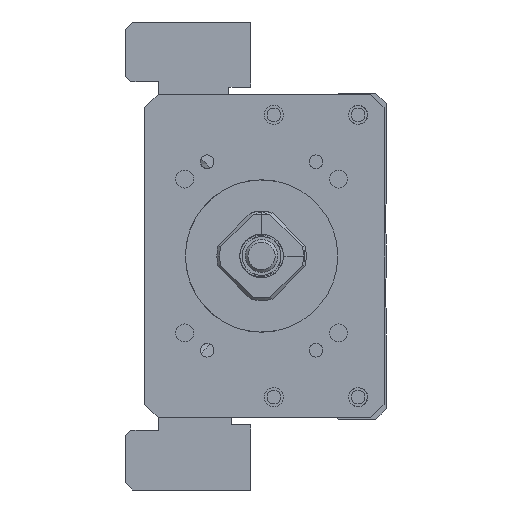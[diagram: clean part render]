
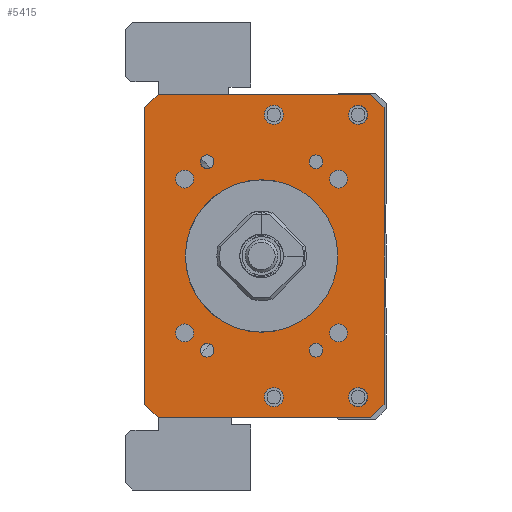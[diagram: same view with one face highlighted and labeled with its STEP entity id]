
A CAD part, left-side view. The second image highlights one B-rep face of the part: STEP entity #5415.
In plain terms, the highlighted planar face has unit normal (-1, 0, 0).
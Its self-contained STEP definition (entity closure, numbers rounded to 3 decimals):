
#4422=FACE_BOUND('',#7089,.T.);
#4423=FACE_BOUND('',#7090,.T.);
#4424=FACE_BOUND('',#7091,.T.);
#4425=FACE_BOUND('',#7092,.T.);
#4426=FACE_BOUND('',#7093,.T.);
#4427=FACE_BOUND('',#7094,.T.);
#4428=FACE_BOUND('',#7095,.T.);
#4429=FACE_BOUND('',#7096,.T.);
#4430=FACE_BOUND('',#7097,.T.);
#4431=FACE_BOUND('',#7098,.T.);
#4432=FACE_BOUND('',#7099,.T.);
#4433=FACE_BOUND('',#7100,.T.);
#4434=FACE_BOUND('',#7101,.T.);
#4435=FACE_BOUND('',#7102,.T.);
#4815=CIRCLE('',#15295,14.);
#4824=CIRCLE('',#15306,1.65);
#4825=CIRCLE('',#15307,1.65);
#4826=CIRCLE('',#15308,1.65);
#4827=CIRCLE('',#15309,1.65);
#4828=CIRCLE('',#15310,1.25);
#4829=CIRCLE('',#15311,1.75);
#4830=CIRCLE('',#15312,1.25);
#4831=CIRCLE('',#15313,1.75);
#4832=CIRCLE('',#15314,1.25);
#4833=CIRCLE('',#15315,1.75);
#4834=CIRCLE('',#15316,1.75);
#4835=CIRCLE('',#15317,1.25);
#5415=ADVANCED_FACE('',(#4422,#4423,#4424,#4425,#4426,#4427,#4428,#4429,
#4430,#4431,#4432,#4433,#4434,#4435),#5910,.F.);
#5910=PLANE('',#15318);
#7089=EDGE_LOOP('',(#9559));
#7090=EDGE_LOOP('',(#9560));
#7091=EDGE_LOOP('',(#9561));
#7092=EDGE_LOOP('',(#9562));
#7093=EDGE_LOOP('',(#9563));
#7094=EDGE_LOOP('',(#9564));
#7095=EDGE_LOOP('',(#9565));
#7096=EDGE_LOOP('',(#9566));
#7097=EDGE_LOOP('',(#9567));
#7098=EDGE_LOOP('',(#9568,#9569,#9570,#9571,#9572,#9573,#9574,#9575));
#7099=EDGE_LOOP('',(#9576));
#7100=EDGE_LOOP('',(#9577));
#7101=EDGE_LOOP('',(#9578));
#7102=EDGE_LOOP('',(#9579));
#9559=ORIENTED_EDGE('',*,*,#12400,.F.);
#9560=ORIENTED_EDGE('',*,*,#12401,.F.);
#9561=ORIENTED_EDGE('',*,*,#12402,.F.);
#9562=ORIENTED_EDGE('',*,*,#12403,.F.);
#9563=ORIENTED_EDGE('',*,*,#12404,.F.);
#9564=ORIENTED_EDGE('',*,*,#12405,.T.);
#9565=ORIENTED_EDGE('',*,*,#12406,.F.);
#9566=ORIENTED_EDGE('',*,*,#12407,.F.);
#9567=ORIENTED_EDGE('',*,*,#12408,.F.);
#9568=ORIENTED_EDGE('',*,*,#12397,.T.);
#9569=ORIENTED_EDGE('',*,*,#12409,.T.);
#9570=ORIENTED_EDGE('',*,*,#12410,.F.);
#9571=ORIENTED_EDGE('',*,*,#12411,.T.);
#9572=ORIENTED_EDGE('',*,*,#12412,.F.);
#9573=ORIENTED_EDGE('',*,*,#12413,.T.);
#9574=ORIENTED_EDGE('',*,*,#12414,.T.);
#9575=ORIENTED_EDGE('',*,*,#12415,.T.);
#9576=ORIENTED_EDGE('',*,*,#12416,.F.);
#9577=ORIENTED_EDGE('',*,*,#12417,.F.);
#9578=ORIENTED_EDGE('',*,*,#12418,.F.);
#9579=ORIENTED_EDGE('',*,*,#12377,.F.);
#11044=VERTEX_POINT('',#21496);
#11064=VERTEX_POINT('',#21556);
#11065=VERTEX_POINT('',#21558);
#11067=VERTEX_POINT('',#21564);
#11068=VERTEX_POINT('',#21566);
#11069=VERTEX_POINT('',#21568);
#11070=VERTEX_POINT('',#21570);
#11071=VERTEX_POINT('',#21572);
#11072=VERTEX_POINT('',#21574);
#11073=VERTEX_POINT('',#21576);
#11074=VERTEX_POINT('',#21578);
#11075=VERTEX_POINT('',#21580);
#11076=VERTEX_POINT('',#21582);
#11077=VERTEX_POINT('',#21584);
#11078=VERTEX_POINT('',#21586);
#11079=VERTEX_POINT('',#21588);
#11080=VERTEX_POINT('',#21590);
#11081=VERTEX_POINT('',#21592);
#11082=VERTEX_POINT('',#21595);
#11083=VERTEX_POINT('',#21597);
#11084=VERTEX_POINT('',#21599);
#12377=EDGE_CURVE('',#11044,#11044,#4815,.T.);
#12397=EDGE_CURVE('',#11065,#11064,#13507,.T.);
#12400=EDGE_CURVE('',#11067,#11067,#4824,.T.);
#12401=EDGE_CURVE('',#11068,#11068,#4825,.T.);
#12402=EDGE_CURVE('',#11069,#11069,#4826,.T.);
#12403=EDGE_CURVE('',#11070,#11070,#4827,.T.);
#12404=EDGE_CURVE('',#11071,#11071,#4828,.T.);
#12405=EDGE_CURVE('',#11072,#11072,#4829,.T.);
#12406=EDGE_CURVE('',#11073,#11073,#4830,.T.);
#12407=EDGE_CURVE('',#11074,#11074,#4831,.T.);
#12408=EDGE_CURVE('',#11075,#11075,#4832,.T.);
#12409=EDGE_CURVE('',#11064,#11076,#13509,.T.);
#12410=EDGE_CURVE('',#11077,#11076,#13510,.T.);
#12411=EDGE_CURVE('',#11077,#11078,#13511,.T.);
#12412=EDGE_CURVE('',#11079,#11078,#13512,.T.);
#12413=EDGE_CURVE('',#11079,#11080,#13513,.T.);
#12414=EDGE_CURVE('',#11080,#11081,#13514,.T.);
#12415=EDGE_CURVE('',#11081,#11065,#13515,.T.);
#12416=EDGE_CURVE('',#11082,#11082,#4833,.T.);
#12417=EDGE_CURVE('',#11083,#11083,#4834,.T.);
#12418=EDGE_CURVE('',#11084,#11084,#4835,.T.);
#13507=LINE('',#21557,#14402);
#13509=LINE('',#21581,#14404);
#13510=LINE('',#21583,#14405);
#13511=LINE('',#21585,#14406);
#13512=LINE('',#21587,#14407);
#13513=LINE('',#21589,#14408);
#13514=LINE('',#21591,#14409);
#13515=LINE('',#21593,#14410);
#14402=VECTOR('',#17883,1.);
#14404=VECTOR('',#17907,1.);
#14405=VECTOR('',#17908,1.);
#14406=VECTOR('',#17909,1.);
#14407=VECTOR('',#17910,1.);
#14408=VECTOR('',#17911,1.);
#14409=VECTOR('',#17912,1.);
#14410=VECTOR('',#17913,1.);
#15295=AXIS2_PLACEMENT_3D('',#21495,#17857,#17858);
#15306=AXIS2_PLACEMENT_3D('',#21563,#17889,#17890);
#15307=AXIS2_PLACEMENT_3D('',#21565,#17891,#17892);
#15308=AXIS2_PLACEMENT_3D('',#21567,#17893,#17894);
#15309=AXIS2_PLACEMENT_3D('',#21569,#17895,#17896);
#15310=AXIS2_PLACEMENT_3D('',#21571,#17897,#17898);
#15311=AXIS2_PLACEMENT_3D('',#21573,#17899,#17900);
#15312=AXIS2_PLACEMENT_3D('',#21575,#17901,#17902);
#15313=AXIS2_PLACEMENT_3D('',#21577,#17903,#17904);
#15314=AXIS2_PLACEMENT_3D('',#21579,#17905,#17906);
#15315=AXIS2_PLACEMENT_3D('',#21594,#17914,#17915);
#15316=AXIS2_PLACEMENT_3D('',#21596,#17916,#17917);
#15317=AXIS2_PLACEMENT_3D('',#21598,#17918,#17919);
#15318=AXIS2_PLACEMENT_3D('',#21600,#17920,#17921);
#17857=DIRECTION('',(-1.,0.,0.));
#17858=DIRECTION('',(0.,1.,0.));
#17883=DIRECTION('',(0.,0.,-1.));
#17889=DIRECTION('',(-1.,0.,0.));
#17890=DIRECTION('',(0.,0.,1.));
#17891=DIRECTION('',(-1.,0.,0.));
#17892=DIRECTION('',(0.,0.,1.));
#17893=DIRECTION('',(-1.,0.,0.));
#17894=DIRECTION('',(0.,0.,1.));
#17895=DIRECTION('',(-1.,0.,0.));
#17896=DIRECTION('',(0.,0.,1.));
#17897=DIRECTION('',(-1.,0.,0.));
#17898=DIRECTION('',(0.,1.,0.));
#17899=DIRECTION('',(1.,0.,0.));
#17900=DIRECTION('',(0.,0.,1.));
#17901=DIRECTION('',(-1.,0.,0.));
#17902=DIRECTION('',(0.,1.,0.));
#17903=DIRECTION('',(-1.,0.,0.));
#17904=DIRECTION('',(0.,0.,1.));
#17905=DIRECTION('',(-1.,0.,0.));
#17906=DIRECTION('',(0.,1.,0.));
#17907=DIRECTION('',(0.,-0.707,-0.707));
#17908=DIRECTION('',(0.,1.,0.));
#17909=DIRECTION('',(0.,-0.707,0.707));
#17910=DIRECTION('',(0.,0.,-1.));
#17911=DIRECTION('',(0.,0.707,0.707));
#17912=DIRECTION('',(0.,1.,0.));
#17913=DIRECTION('',(0.,0.707,-0.707));
#17914=DIRECTION('',(-1.,0.,0.));
#17915=DIRECTION('',(0.,0.,1.));
#17916=DIRECTION('',(-1.,0.,0.));
#17917=DIRECTION('',(0.,0.,1.));
#17918=DIRECTION('',(-1.,0.,0.));
#17919=DIRECTION('',(0.,1.,0.));
#17920=DIRECTION('',(1.,0.,0.));
#17921=DIRECTION('',(0.,1.,0.));
#21495=CARTESIAN_POINT('',(-211.,0.,-300.));
#21496=CARTESIAN_POINT('',(-211.,14.,-300.));
#21556=CARTESIAN_POINT('',(-211.,21.499,-327.25));
#21557=CARTESIAN_POINT('',(-211.,21.499,-270.25));
#21558=CARTESIAN_POINT('',(-211.,21.499,-272.75));
#21563=CARTESIAN_POINT('',(-211.,14.142,-285.858));
#21564=CARTESIAN_POINT('',(-211.,14.142,-284.208));
#21565=CARTESIAN_POINT('',(-211.,-14.142,-285.858));
#21566=CARTESIAN_POINT('',(-211.,-14.142,-284.208));
#21567=CARTESIAN_POINT('',(-211.,14.142,-314.142));
#21568=CARTESIAN_POINT('',(-211.,14.142,-312.492));
#21569=CARTESIAN_POINT('',(-211.,-14.142,-314.142));
#21570=CARTESIAN_POINT('',(-211.,-14.142,-312.492));
#21571=CARTESIAN_POINT('',(-211.,-10.,-317.321));
#21572=CARTESIAN_POINT('',(-211.,-8.75,-317.321));
#21573=CARTESIAN_POINT('',(-211.,-2.25,-325.936));
#21574=CARTESIAN_POINT('',(-211.,-2.25,-324.186));
#21575=CARTESIAN_POINT('',(-211.,10.,-282.679));
#21576=CARTESIAN_POINT('',(-211.,11.25,-282.679));
#21577=CARTESIAN_POINT('',(-211.,-2.25,-274.064));
#21578=CARTESIAN_POINT('',(-211.,-2.25,-272.314));
#21579=CARTESIAN_POINT('',(-211.,10.,-317.321));
#21580=CARTESIAN_POINT('',(-211.,11.25,-317.321));
#21581=CARTESIAN_POINT('',(-211.,18.999,-329.75));
#21582=CARTESIAN_POINT('',(-211.,18.999,-329.75));
#21583=CARTESIAN_POINT('',(-211.,-22.501,-329.75));
#21584=CARTESIAN_POINT('',(-211.,-20.001,-329.75));
#21585=CARTESIAN_POINT('',(-211.,-22.501,-327.25));
#21586=CARTESIAN_POINT('',(-211.,-22.501,-327.25));
#21587=CARTESIAN_POINT('',(-211.,-22.501,-270.25));
#21588=CARTESIAN_POINT('',(-211.,-22.501,-272.75));
#21589=CARTESIAN_POINT('',(-211.,-22.501,-272.75));
#21590=CARTESIAN_POINT('',(-211.,-20.001,-270.25));
#21591=CARTESIAN_POINT('',(-211.,-22.501,-270.25));
#21592=CARTESIAN_POINT('',(-211.,18.999,-270.25));
#21593=CARTESIAN_POINT('',(-211.,18.999,-270.25));
#21594=CARTESIAN_POINT('',(-211.,-17.75,-274.064));
#21595=CARTESIAN_POINT('',(-211.,-17.75,-272.314));
#21596=CARTESIAN_POINT('',(-211.,-17.75,-325.936));
#21597=CARTESIAN_POINT('',(-211.,-17.75,-324.186));
#21598=CARTESIAN_POINT('',(-211.,-10.,-282.679));
#21599=CARTESIAN_POINT('',(-211.,-8.75,-282.679));
#21600=CARTESIAN_POINT('',(-211.,-22.501,-270.25));
